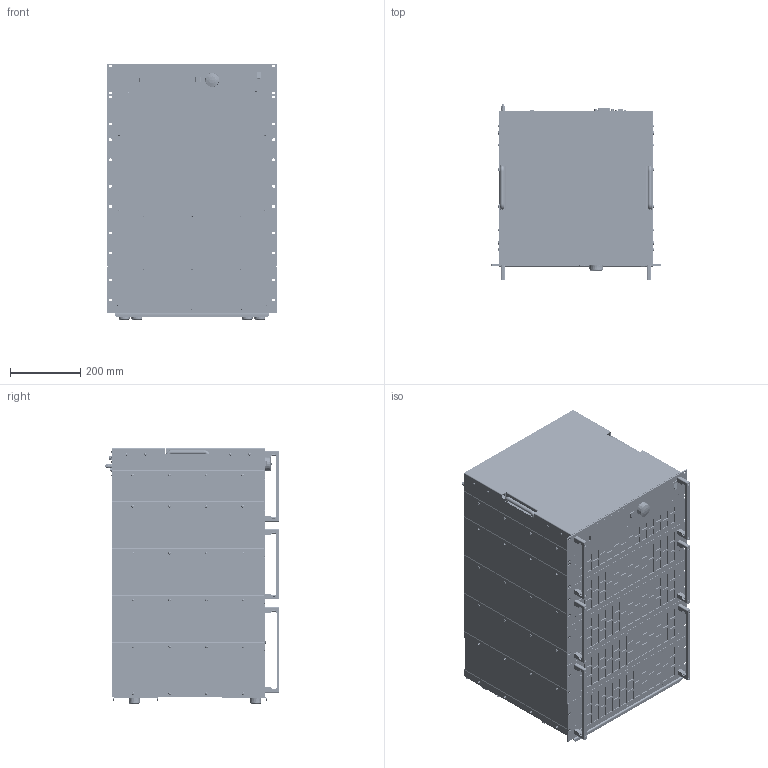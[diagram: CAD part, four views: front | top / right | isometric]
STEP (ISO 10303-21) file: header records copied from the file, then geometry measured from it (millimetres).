
FILE_DESCRIPTION(('STEP AP214'),'1');
FILE_NAME('ACL_M18_19Z_16HE_PH3_10.16_ST76_BRA_3D_02.step','2020-02-20T10:42:21',(' '),(' '),'Spatial InterOp 3D',' ',' ');
FILE_SCHEMA(('AUTOMOTIVE_DESIGN { 1 0 10303 214 1 1 1 1 }'));
Length unit declared in the file: millimetre
Products named in the file (27): *U500; *U501; *U502; *U506; *U507; *U508; 2073_Seitenteil_2HE_3D_01; 2081_Frontplatte_Leistungsteil_2HE_3D_01; 2075_Rückwand_Leistungsteil_2HE_3D_01; 2076_ACL_2HE_Seitenprofil_links_3D_01; 2077_ACL_2HE_Seitenprofil_rechts_3D_01; *U517; *U518; *U519; *U598; *U599; *U600; *U601; *U602; *U603; *U604; *U605; 2078_ACL_IO Panel_02; 2085_ACL_Rückwand_Steuerteil_Single_Phase_mit_Druck_3D_02; *U636; AutoCreatedBlock_2400
Assembly tree (164 placements, depth 2):
  (unnamed)
    *U500  x8
    *U501  x6
    *U502  x8
    *U506  x24
    *U507  x18
    *U508  x24
    2073_Seitenteil_2HE_3D_01  x2
    2081_Frontplatte_Leistungsteil_2HE_3D_01
    2075_Rückwand_Leistungsteil_2HE_3D_01
    2076_ACL_2HE_Seitenprofil_links_3D_01
    2077_ACL_2HE_Seitenprofil_rechts_3D_01
    *U517  x6
    *U518  x8
    *U519  x4
    *U598  x2
    *U599
    *U600  x3
    *U601  x2
    *U602  x2
    *U603  x13
    *U604  x16
    *U605  x6
    2078_ACL_IO Panel_02
    2085_ACL_Rückwand_Steuerteil_Single_Phase_mit_Druck_3D_02
    *U636  x4
    AutoCreatedBlock_2400
Bounding box: 482.61 x 498.15 x 728.54 mm (x, y, z)
Volume: 4426785.5 mm3; surface area: 6854525.9 mm2
Topology: 375 solids, 549 shells, 28605 faces, 71648 edges, 44705 vertices
Faces by surface type: plane 13359, cone 9888, cylinder 4590, sphere 332, torus 219, bspline 190, extrusion 27
Entity records: 859950 total; most frequent: CARTESIAN_POINT 153176, DIRECTION 111253, ORIENTED_EDGE 108802, EDGE_CURVE 54761, VECTOR 39069, LINE 39042, AXIS2_PLACEMENT_3D 36092, VERTEX_POINT 34731
